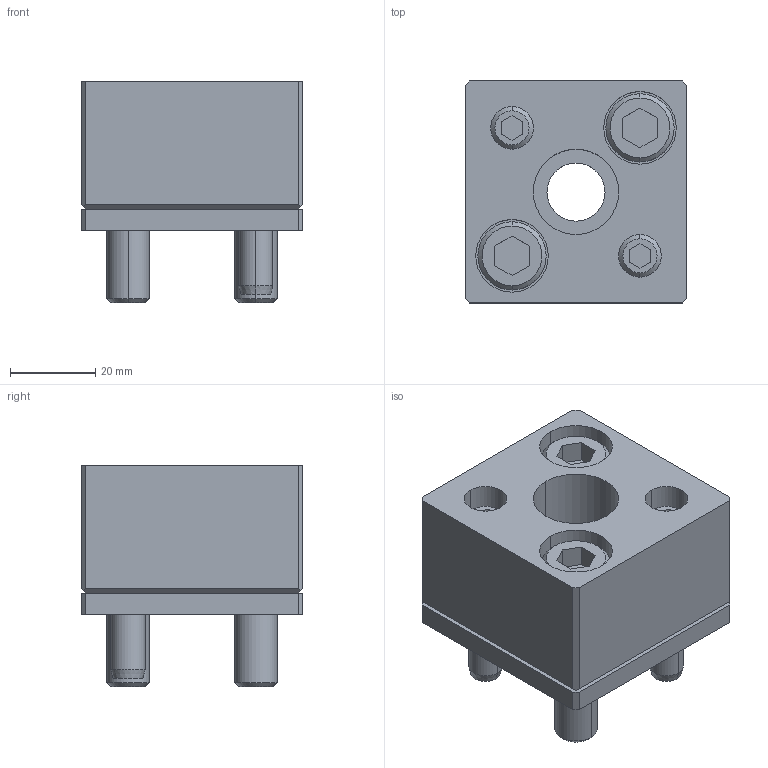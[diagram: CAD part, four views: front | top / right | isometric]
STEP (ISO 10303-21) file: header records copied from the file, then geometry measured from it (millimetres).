
FILE_DESCRIPTION(/* description */ (''),/* implementation_level */ '2;1');
FILE_NAME(/* name */ '3d_sr-ad20_02894_r00.stp',/* time_stamp */ '2011-01-10T14:10:01+09:00',/* author */ ('MISUMI'),/* organization */ (''),/* preprocessor_version */ 'ST-DEVELOPER v11',/* originating_system */ 'UGS - NX 5.0',/* authorisation */ '');
FILE_SCHEMA (('CONFIG_CONTROL_DESIGN'));
Length unit declared in the file: millimetre
Products named in the file (1): 3d_sr-ad20_02894_r00
Bounding box: 52 x 52 x 52 mm (x, y, z)
Volume: 86004.2 mm3; surface area: 29307.9 mm2
Topology: 8 solids, 8 shells, 155 faces, 346 edges, 222 vertices
Faces by surface type: plane 77, cylinder 52, cone 26
Entity records: 4440 total; most frequent: DIRECTION 784, CARTESIAN_POINT 766, ORIENTED_EDGE 692, EDGE_CURVE 346, AXIS2_PLACEMENT_3D 286, VERTEX_POINT 222, LINE 212, VECTOR 212
